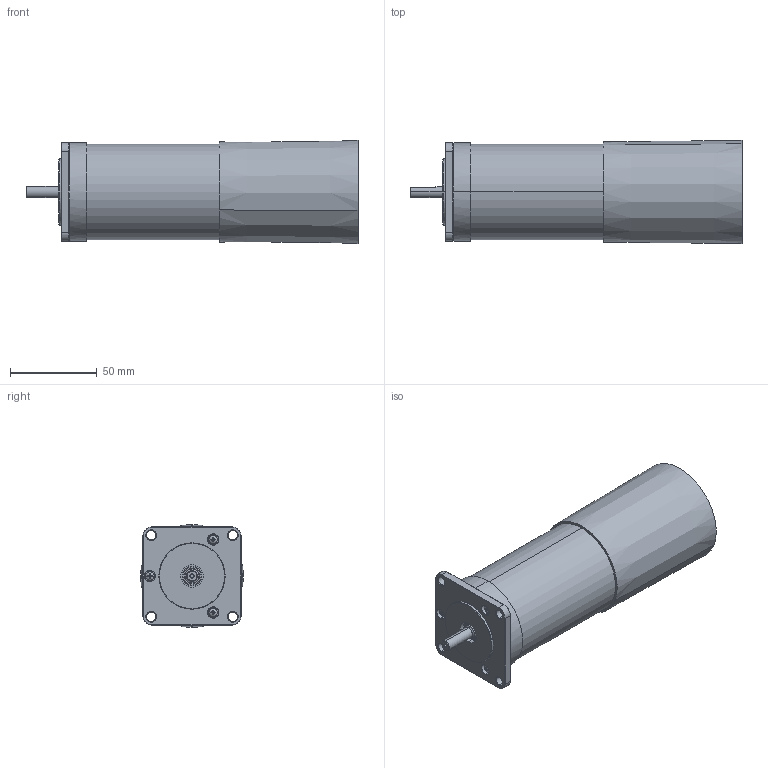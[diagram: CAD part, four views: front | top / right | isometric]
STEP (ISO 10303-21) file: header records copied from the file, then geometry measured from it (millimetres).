
FILE_DESCRIPTION((''),'2;1');
FILE_NAME('STEPPERASSY_ASM','2022-09-03T20:23:07',('Administrator'),(''),'CREO PARAMETRIC BY PTC INC, 2022014','CREO PARAMETRIC BY PTC INC, 2022014','');
FILE_SCHEMA(('AUTOMOTIVE_DESIGN { 1 0 10303 214 1 1 1 1 }'));
Length unit declared in the file: millimetre
Products named in the file (7): SF; SF42; SHAFT_A; NEWBEARING_I42; CENT_MAC_PART_NEW_1; MAC_MOTOR_ASM; STEPPERASSY_ASM
Assembly tree (6 placements, depth 3):
  STEPPERASSY_ASM
    MAC_MOTOR_ASM
      SF
      SF42
      SHAFT_A
      NEWBEARING_I42
      CENT_MAC_PART_NEW_1
Bounding box: 191.6 x 59.49 x 59.49 mm (x, y, z)
Volume: 249270.7 mm3; surface area: 79213.6 mm2
Topology: 15 solids, 15 shells, 687 faces, 1801 edges, 1172 vertices
Faces by surface type: plane 234, cylinder 170, cone 169, torus 52, sphere 32, bspline 30
Entity records: 34564 total; most frequent: CARTESIAN_POINT 8433, DIRECTION 3927, ORIENTED_EDGE 3494, EDGE_CURVE 1747, AXIS2_PLACEMENT_3D 1632, PRESENTATION_STYLE_ASSIGNMENT 1298, VERTEX_POINT 1128, STYLED_ITEM 1079
